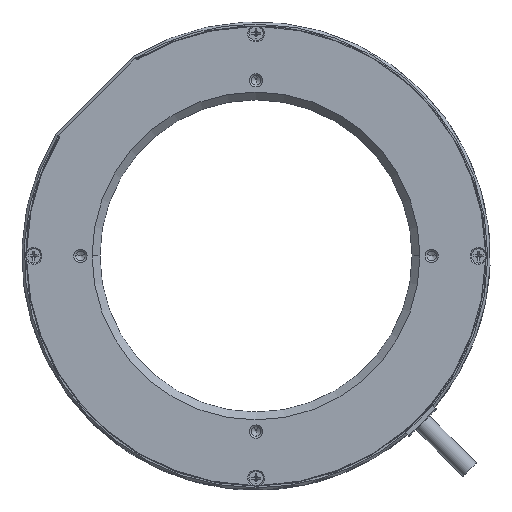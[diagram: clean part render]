
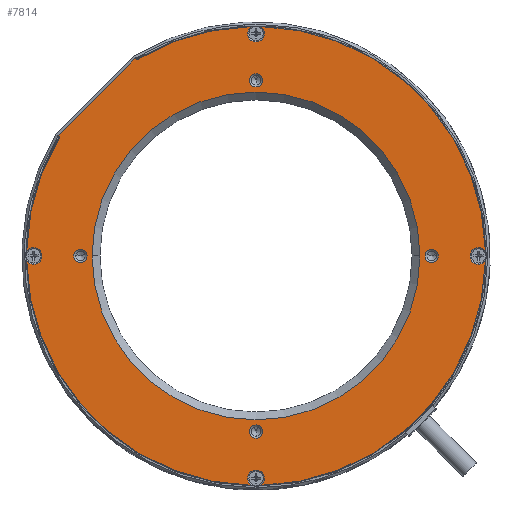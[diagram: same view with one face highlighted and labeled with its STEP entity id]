
A CAD part, top view. The second image highlights one B-rep face of the part: STEP entity #7814.
In plain terms, the highlighted planar face has unit normal (0, 0, 1).
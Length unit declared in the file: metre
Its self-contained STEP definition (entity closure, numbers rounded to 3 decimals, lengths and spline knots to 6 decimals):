
#1345=CARTESIAN_POINT('',(0.,0.,0.002));
#1346=DIRECTION('',(0.,0.,-1.));
#1347=DIRECTION('',(1.,0.,0.));
#1348=AXIS2_PLACEMENT_3D('',#1345,#1346,#1347);
#1350=CARTESIAN_POINT('',(0.,0.,0.002));
#1351=DIRECTION('',(0.,0.,-1.));
#1352=DIRECTION('',(-1.,0.,0.));
#1353=AXIS2_PLACEMENT_3D('',#1350,#1351,#1352);
#1355=CARTESIAN_POINT('',(0.045,0.,0.002));
#1356=DIRECTION('',(0.,0.,-1.));
#1357=DIRECTION('',(1.,0.,0.));
#1358=AXIS2_PLACEMENT_3D('',#1355,#1356,#1357);
#1360=CARTESIAN_POINT('',(0.045,0.,0.002));
#1361=DIRECTION('',(0.,0.,-1.));
#1362=DIRECTION('',(-1.,0.,0.));
#1363=AXIS2_PLACEMENT_3D('',#1360,#1361,#1362);
#1365=CARTESIAN_POINT('',(0.,0.045,0.002));
#1366=DIRECTION('',(0.,0.,-1.));
#1367=DIRECTION('',(0.,1.,0.));
#1368=AXIS2_PLACEMENT_3D('',#1365,#1366,#1367);
#1370=CARTESIAN_POINT('',(0.,0.045,0.002));
#1371=DIRECTION('',(0.,0.,-1.));
#1372=DIRECTION('',(0.,-1.,0.));
#1373=AXIS2_PLACEMENT_3D('',#1370,#1371,#1372);
#1375=CARTESIAN_POINT('',(-0.045,0.,0.002));
#1376=DIRECTION('',(0.,0.,-1.));
#1377=DIRECTION('',(-1.,0.,0.));
#1378=AXIS2_PLACEMENT_3D('',#1375,#1376,#1377);
#1380=CARTESIAN_POINT('',(-0.045,0.,0.002));
#1381=DIRECTION('',(0.,0.,-1.));
#1382=DIRECTION('',(1.,0.,0.));
#1383=AXIS2_PLACEMENT_3D('',#1380,#1381,#1382);
#1385=CARTESIAN_POINT('',(0.,-0.045,0.002));
#1386=DIRECTION('',(0.,0.,-1.));
#1387=DIRECTION('',(0.,-1.,0.));
#1388=AXIS2_PLACEMENT_3D('',#1385,#1386,#1387);
#1390=CARTESIAN_POINT('',(0.,-0.045,0.002));
#1391=DIRECTION('',(0.,0.,-1.));
#1392=DIRECTION('',(0.,1.,0.));
#1393=AXIS2_PLACEMENT_3D('',#1390,#1391,#1392);
#1395=CARTESIAN_POINT('',(0.,0.,0.002));
#1396=DIRECTION('',(0.,0.,1.));
#1397=DIRECTION('',(-0.859,0.513,0.));
#1398=AXIS2_PLACEMENT_3D('',#1395,#1396,#1397);
#1400=CARTESIAN_POINT('',(-0.050912,0.030406,0.002));
#1401=DIRECTION('',(0.,0.,-1.));
#1402=DIRECTION('',(0.707,0.707,0.));
#1403=AXIS2_PLACEMENT_3D('',#1400,#1401,#1402);
#1405=DIRECTION('',(0.707,-0.707,0.));
#1406=VECTOR('',#1405,0.000244);
#1407=CARTESIAN_POINT('',(-0.050731,0.030932,0.002));
#1408=LINE('',#1407,#1406);
#1409=DIRECTION('',(-0.707,-0.707,0.));
#1410=VECTOR('',#1409,0.028);
#1411=CARTESIAN_POINT('',(-0.030932,0.050731,0.002));
#1412=LINE('',#1411,#1410);
#1413=DIRECTION('',(-0.707,0.707,0.));
#1414=VECTOR('',#1413,0.000244);
#1415=CARTESIAN_POINT('',(-0.030759,0.050558,0.002));
#1416=LINE('',#1415,#1414);
#1417=CARTESIAN_POINT('',(-0.030406,0.050912,0.002));
#1418=DIRECTION('',(0.,0.,-1.));
#1419=DIRECTION('',(0.513,-0.859,0.));
#1420=AXIS2_PLACEMENT_3D('',#1417,#1418,#1419);
#1422=CARTESIAN_POINT('',(0.,0.,0.002));
#1423=DIRECTION('',(0.,0.,1.));
#1424=DIRECTION('',(-0.02,1.,0.));
#1425=AXIS2_PLACEMENT_3D('',#1422,#1423,#1424);
#1427=CARTESIAN_POINT('',(0.,0.,0.002));
#1428=DIRECTION('',(0.,0.,1.));
#1429=DIRECTION('',(1.,0.02,0.));
#1430=AXIS2_PLACEMENT_3D('',#1427,#1428,#1429);
#1432=CARTESIAN_POINT('',(0.,0.,0.002));
#1433=DIRECTION('',(0.,0.,1.));
#1434=DIRECTION('',(0.02,-1.,0.));
#1435=AXIS2_PLACEMENT_3D('',#1432,#1433,#1434);
#1437=CARTESIAN_POINT('',(0.,0.,0.002));
#1438=DIRECTION('',(0.,0.,1.));
#1439=DIRECTION('',(-1.,-0.02,0.));
#1440=AXIS2_PLACEMENT_3D('',#1437,#1438,#1439);
#1636=CARTESIAN_POINT('',(-0.057,0.,0.002));
#1637=DIRECTION('',(0.,0.,-1.));
#1638=DIRECTION('',(-0.832,0.555,0.));
#1639=AXIS2_PLACEMENT_3D('',#1636,#1637,#1638);
#3536=CARTESIAN_POINT('',(0.,-0.057,0.002));
#3537=DIRECTION('',(0.,0.,-1.));
#3538=DIRECTION('',(-0.555,-0.832,0.));
#3539=AXIS2_PLACEMENT_3D('',#3536,#3537,#3538);
#3863=CARTESIAN_POINT('',(0.057,0.,0.002));
#3864=DIRECTION('',(0.,0.,-1.));
#3865=DIRECTION('',(0.832,-0.555,0.));
#3866=AXIS2_PLACEMENT_3D('',#3863,#3864,#3865);
#4197=CARTESIAN_POINT('',(0.,0.057,0.002));
#4198=DIRECTION('',(0.,0.,-1.));
#4199=DIRECTION('',(0.555,0.832,0.));
#4200=AXIS2_PLACEMENT_3D('',#4197,#4198,#4199);
#4618=CARTESIAN_POINT('',(-0.050482,0.030149,0.002));
#4619=CARTESIAN_POINT('',(-0.058788,0.001194,0.002));
#4620=VERTEX_POINT('',#4618);
#4621=VERTEX_POINT('',#4619);
#4622=CARTESIAN_POINT('',(-0.050558,0.030759,0.002));
#4623=VERTEX_POINT('',#4622);
#4624=CARTESIAN_POINT('',(-0.050731,0.030932,0.002));
#4625=VERTEX_POINT('',#4624);
#4626=CARTESIAN_POINT('',(-0.030932,0.050731,0.002));
#4627=VERTEX_POINT('',#4626);
#4628=CARTESIAN_POINT('',(-0.030759,0.050558,0.002));
#4629=VERTEX_POINT('',#4628);
#4630=CARTESIAN_POINT('',(-0.030149,0.050482,0.002));
#4631=VERTEX_POINT('',#4630);
#4632=CARTESIAN_POINT('',(-0.001194,0.058788,0.002));
#4633=VERTEX_POINT('',#4632);
#4634=CARTESIAN_POINT('',(0.058788,0.001194,0.002));
#4635=CARTESIAN_POINT('',(0.001194,0.058788,0.002));
#4636=VERTEX_POINT('',#4634);
#4637=VERTEX_POINT('',#4635);
#4638=CARTESIAN_POINT('',(0.001194,-0.058788,0.002));
#4639=CARTESIAN_POINT('',(0.058788,-0.001194,0.002));
#4640=VERTEX_POINT('',#4638);
#4641=VERTEX_POINT('',#4639);
#4642=CARTESIAN_POINT('',(-0.058788,-0.001194,0.002));
#4643=CARTESIAN_POINT('',(-0.001194,-0.058788,0.002));
#4644=VERTEX_POINT('',#4642);
#4645=VERTEX_POINT('',#4643);
#4646=CARTESIAN_POINT('',(0.,-0.0433,0.002));
#4647=CARTESIAN_POINT('',(0.,-0.0467,0.002));
#4648=VERTEX_POINT('',#4646);
#4649=VERTEX_POINT('',#4647);
#4650=CARTESIAN_POINT('',(-0.0433,0.,0.002));
#4651=CARTESIAN_POINT('',(-0.0467,0.,0.002));
#4652=VERTEX_POINT('',#4650);
#4653=VERTEX_POINT('',#4651);
#4654=CARTESIAN_POINT('',(0.,0.0433,0.002));
#4655=CARTESIAN_POINT('',(0.,0.0467,0.002));
#4656=VERTEX_POINT('',#4654);
#4657=VERTEX_POINT('',#4655);
#4658=CARTESIAN_POINT('',(0.0433,0.,0.002));
#4659=CARTESIAN_POINT('',(0.0467,0.,0.002));
#4660=VERTEX_POINT('',#4658);
#4661=VERTEX_POINT('',#4659);
#4662=CARTESIAN_POINT('',(-0.042,0.,0.002));
#4663=CARTESIAN_POINT('',(0.042,0.,0.002));
#4664=VERTEX_POINT('',#4662);
#4665=VERTEX_POINT('',#4663);
#7751=CARTESIAN_POINT('',(0.,0.,0.002));
#7752=DIRECTION('',(0.,0.,-1.));
#7753=DIRECTION('',(1.,0.,0.));
#7754=AXIS2_PLACEMENT_3D('',#7751,#7752,#7753);
#7755=PLANE('',#7754);
#7757=ORIENTED_EDGE('',*,*,#7756,.F.);
#7759=ORIENTED_EDGE('',*,*,#7758,.F.);
#7761=ORIENTED_EDGE('',*,*,#7760,.F.);
#7763=ORIENTED_EDGE('',*,*,#7762,.F.);
#7765=ORIENTED_EDGE('',*,*,#7764,.F.);
#7767=ORIENTED_EDGE('',*,*,#7766,.F.);
#7769=ORIENTED_EDGE('',*,*,#7768,.F.);
#7771=ORIENTED_EDGE('',*,*,#7770,.F.);
#7773=ORIENTED_EDGE('',*,*,#7772,.F.);
#7775=ORIENTED_EDGE('',*,*,#7774,.F.);
#7777=ORIENTED_EDGE('',*,*,#7776,.F.);
#7779=ORIENTED_EDGE('',*,*,#7778,.F.);
#7781=ORIENTED_EDGE('',*,*,#7780,.F.);
#7783=ORIENTED_EDGE('',*,*,#7782,.F.);
#7784=EDGE_LOOP('',(#7757,#7759,#7761,#7763,#7765,#7767,#7769,#7771,#7773,#7775,
#7777,#7779,#7781,#7783));
#7785=FACE_OUTER_BOUND('',#7784,.F.);
#7787=ORIENTED_EDGE('',*,*,#7786,.F.);
#7789=ORIENTED_EDGE('',*,*,#7788,.F.);
#7790=EDGE_LOOP('',(#7787,#7789));
#7791=FACE_BOUND('',#7790,.F.);
#7793=ORIENTED_EDGE('',*,*,#7792,.F.);
#7795=ORIENTED_EDGE('',*,*,#7794,.F.);
#7796=EDGE_LOOP('',(#7793,#7795));
#7797=FACE_BOUND('',#7796,.F.);
#7799=ORIENTED_EDGE('',*,*,#7798,.F.);
#7801=ORIENTED_EDGE('',*,*,#7800,.F.);
#7802=EDGE_LOOP('',(#7799,#7801));
#7803=FACE_BOUND('',#7802,.F.);
#7805=ORIENTED_EDGE('',*,*,#7804,.F.);
#7807=ORIENTED_EDGE('',*,*,#7806,.F.);
#7808=EDGE_LOOP('',(#7805,#7807));
#7809=FACE_BOUND('',#7808,.F.);
#7810=ORIENTED_EDGE('',*,*,#7744,.F.);
#7811=ORIENTED_EDGE('',*,*,#7730,.F.);
#7812=EDGE_LOOP('',(#7810,#7811));
#7813=FACE_BOUND('',#7812,.F.);
#7814=ADVANCED_FACE('',(#7785,#7791,#7797,#7803,#7809,#7813),#7755,.F.);
#1349=CIRCLE('',#1348,0.042);
#1354=CIRCLE('',#1353,0.042);
#1359=CIRCLE('',#1358,0.0017);
#1364=CIRCLE('',#1363,0.0017);
#1369=CIRCLE('',#1368,0.0017);
#1374=CIRCLE('',#1373,0.0017);
#1379=CIRCLE('',#1378,0.0017);
#1384=CIRCLE('',#1383,0.0017);
#1389=CIRCLE('',#1388,0.0017);
#1394=CIRCLE('',#1393,0.0017);
#1399=CIRCLE('',#1398,0.0588);
#1404=CIRCLE('',#1403,0.0005);
#1421=CIRCLE('',#1420,0.0005);
#1426=CIRCLE('',#1425,0.0588);
#1431=CIRCLE('',#1430,0.0588);
#1436=CIRCLE('',#1435,0.0588);
#1441=CIRCLE('',#1440,0.0588);
#1640=CIRCLE('',#1639,0.00215);
#3540=CIRCLE('',#3539,0.00215);
#3867=CIRCLE('',#3866,0.00215);
#4201=CIRCLE('',#4200,0.00215);
#7730=EDGE_CURVE('',#4664,#4665,#1354,.T.);
#7744=EDGE_CURVE('',#4665,#4664,#1349,.T.);
#7756=EDGE_CURVE('',#4621,#4644,#1640,.T.);
#7758=EDGE_CURVE('',#4620,#4621,#1399,.T.);
#7760=EDGE_CURVE('',#4623,#4620,#1404,.T.);
#7762=EDGE_CURVE('',#4625,#4623,#1408,.T.);
#7764=EDGE_CURVE('',#4627,#4625,#1412,.T.);
#7766=EDGE_CURVE('',#4629,#4627,#1416,.T.);
#7768=EDGE_CURVE('',#4631,#4629,#1421,.T.);
#7770=EDGE_CURVE('',#4633,#4631,#1426,.T.);
#7772=EDGE_CURVE('',#4637,#4633,#4201,.T.);
#7774=EDGE_CURVE('',#4636,#4637,#1431,.T.);
#7776=EDGE_CURVE('',#4641,#4636,#3867,.T.);
#7778=EDGE_CURVE('',#4640,#4641,#1436,.T.);
#7780=EDGE_CURVE('',#4645,#4640,#3540,.T.);
#7782=EDGE_CURVE('',#4644,#4645,#1441,.T.);
#7786=EDGE_CURVE('',#4661,#4660,#1359,.T.);
#7788=EDGE_CURVE('',#4660,#4661,#1364,.T.);
#7792=EDGE_CURVE('',#4657,#4656,#1369,.T.);
#7794=EDGE_CURVE('',#4656,#4657,#1374,.T.);
#7798=EDGE_CURVE('',#4653,#4652,#1379,.T.);
#7800=EDGE_CURVE('',#4652,#4653,#1384,.T.);
#7804=EDGE_CURVE('',#4649,#4648,#1389,.T.);
#7806=EDGE_CURVE('',#4648,#4649,#1394,.T.);
